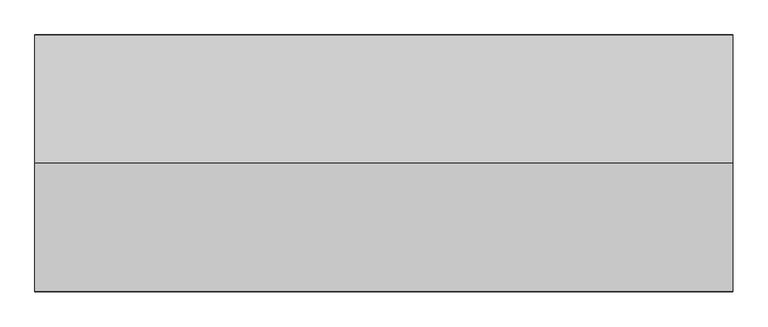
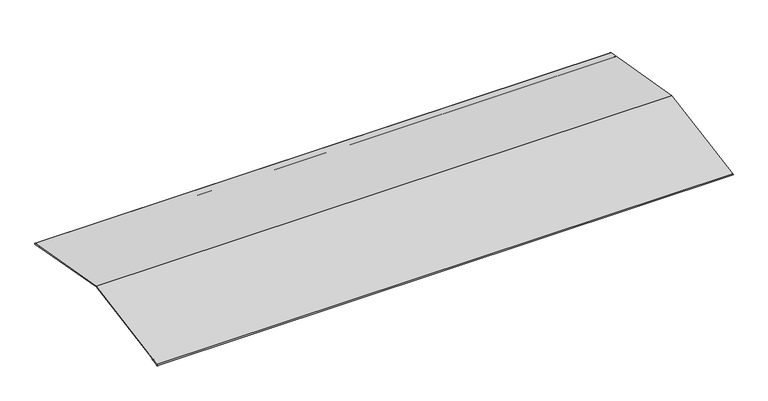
"""IFC4 building model written with IfcOpenShell, lengths in millimetres: proxy geometry, Faitaire a double plat : Faitaire a double plat."""

from ifc_helpers import new_model, si_unit, point, frame, frame_2d, origin, place, context, project, spatial, polyline, circle_curve, trimmed, segment, composite_curve, outline, extrude, source, transform, mapped, element, save


def generic_models_a14e3ee3(model_context):
    return source(origin(), model_context, "Body", "SweptSolid", [
        extrude(outline(composite_curve([segment(polyline([(-183.1742421, -31.2831344), (0.0, 1.0154266), (183.1742421, -31.2831344)]), True, "CONTINUOUS"), segment(trimmed(circle_curve(frame_2d((183.0005939, -32.2679422)), 1.0), [point((183.1742421, -31.2831344))], [point((182.8269457, -33.2527499))], False, "CARTESIAN"), True, "CONTINUOUS"), segment(polyline([(182.8269457, -33.2527499), (170.0244449, -30.9953236)]), True, "CONTINUOUS"), segment(trimmed(circle_curve(frame_2d((170.111269, -30.5029198)), 0.5), [point((170.0244449, -30.9953236))], [point((170.1980931, -30.0105159))], False, "CARTESIAN"), True, "CONTINUOUS"), segment(polyline([(170.1980931, -30.0105159), (0.0, 0.0), (-170.1980931, -30.0105159)]), True, "CONTINUOUS"), segment(trimmed(circle_curve(frame_2d((-170.111269, -30.5029198)), 0.5), [point((-170.1980931, -30.0105159))], [point((-170.0244449, -30.9953236))], False, "CARTESIAN"), True, "CONTINUOUS"), segment(polyline([(-170.0244449, -30.9953236), (-182.8269457, -33.2527499)]), True, "CONTINUOUS"), segment(trimmed(circle_curve(frame_2d((-183.0005939, -32.2679422)), 1.0), [point((-182.8269457, -33.2527499))], [point((-183.1742421, -31.2831344))], False, "CARTESIAN"), True, "CONTINUOUS")], self_intersect=False)), frame((0.0, 0.0, 0.0), z_axis=(1.0, 0.0, 0.0), x_axis=(0.0, 1.0, 0.0)), (0.0, 0.0, 1.0), 1000.0),
    ])


if __name__ == "__main__":
    model = new_model("IFC4")
    model_context = context("Model", 3, world=origin())
    ifc_project = project(units=[si_unit("LENGTHUNIT", "METRE", prefix="MILLI")], contexts=[model_context])
    site = spatial("IfcSite", under=ifc_project)
    building = spatial("IfcBuilding", under=site)
    placement = place(None, origin())
    generic_models_shape = generic_models_a14e3ee3(model_context)
    element("IfcBuildingElementProxy", 1, Name="Faitaire a double plat : Faitaire a double plat", ObjectType="Faitaire a double plat : Faitaire a double plat", at=placement, inside=building, context=model_context, shape_type="MappedRepresentation", body=[
        mapped(generic_models_shape, transform((0.0, 0.0, 0.0), x_axis=(1.0, 0.0, 0.0), y_axis=(0.0, 1.0, 0.0), z_axis=(0.0, 0.0, 1.0))),
    ])
    save(model, "model.ifc")
